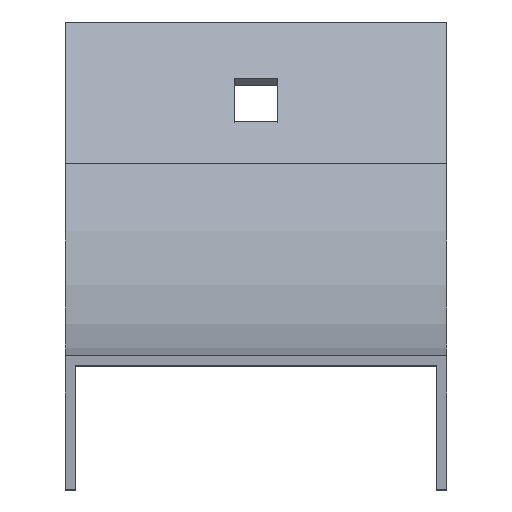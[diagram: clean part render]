
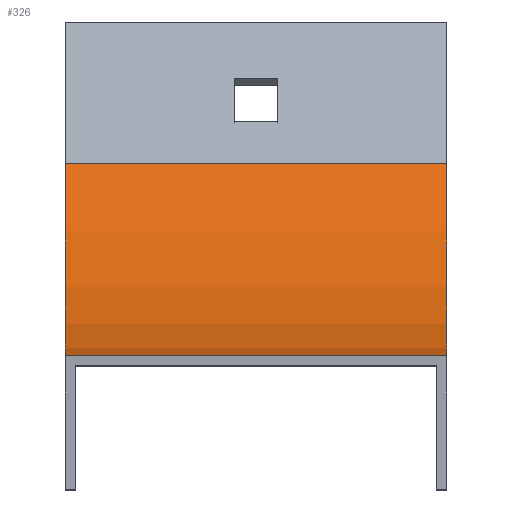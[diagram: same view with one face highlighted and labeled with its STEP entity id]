
A CAD part, top view. The second image highlights one B-rep face of the part: STEP entity #326.
In plain terms, the highlighted cylindrical face has radius 98.5 mm (diameter 197 mm), a partial arc.
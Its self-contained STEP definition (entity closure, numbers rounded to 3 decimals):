
#23 = CIRCLE ( 'NONE', #515, 98.5 ) ;
#67 = CARTESIAN_POINT ( 'NONE',  ( 28.5, 0., -30. ) ) ;
#70 = CARTESIAN_POINT ( 'NONE',  ( 28.5, 0., -30. ) ) ;
#121 = VERTEX_POINT ( 'NONE', #605 ) ;
#123 = CARTESIAN_POINT ( 'NONE',  ( -28.5, 0., -30. ) ) ;
#165 = CIRCLE ( 'NONE', #257, 98.5 ) ;
#209 = ORIENTED_EDGE ( 'NONE', *, *, #248, .F. ) ;
#248 = EDGE_CURVE ( 'NONE', #454, #677, #165, .T. ) ;
#256 = DIRECTION ( 'NONE',  ( 0., 0., -1. ) ) ;
#257 = AXIS2_PLACEMENT_3D ( 'NONE', #720, #794, #775 ) ;
#317 = DIRECTION ( 'NONE',  ( -1., 0., 0. ) ) ;
#324 = DIRECTION ( 'NONE',  ( -1., 0., 0. ) ) ;
#326 = ADVANCED_FACE ( 'NONE', ( #475 ), #471, .F. ) ;
#327 = VECTOR ( 'NONE', #626, 1000. ) ;
#344 = LINE ( 'NONE', #742, #327 ) ;
#378 = ORIENTED_EDGE ( 'NONE', *, *, #810, .F. ) ;
#397 = DIRECTION ( 'NONE',  ( -1., 0., 0. ) ) ;
#403 = DIRECTION ( 'NONE',  ( 0., 0., 1. ) ) ;
#424 = VECTOR ( 'NONE', #324, 1000. ) ;
#431 = ORIENTED_EDGE ( 'NONE', *, *, #688, .T. ) ;
#441 = CARTESIAN_POINT ( 'NONE',  ( -28.5, 98.5, -30. ) ) ;
#454 = VERTEX_POINT ( 'NONE', #546 ) ;
#464 = EDGE_LOOP ( 'NONE', ( #649, #378, #209, #431 ) ) ;
#471 = CYLINDRICAL_SURFACE ( 'NONE', #511, 98.5 ) ;
#475 = FACE_OUTER_BOUND ( 'NONE', #464, .T. ) ;
#511 = AXIS2_PLACEMENT_3D ( 'NONE', #601, #397, #403 ) ;
#515 = AXIS2_PLACEMENT_3D ( 'NONE', #441, #317, #256 ) ;
#546 = CARTESIAN_POINT ( 'NONE',  ( 28.5, 28.85, -99.65 ) ) ;
#601 = CARTESIAN_POINT ( 'NONE',  ( 28.5, 98.5, -30. ) ) ;
#605 = CARTESIAN_POINT ( 'NONE',  ( -28.5, 28.85, -99.65 ) ) ;
#626 = DIRECTION ( 'NONE',  ( -1., 0., 0. ) ) ;
#649 = ORIENTED_EDGE ( 'NONE', *, *, #778, .T. ) ;
#661 = LINE ( 'NONE', #67, #424 ) ;
#677 = VERTEX_POINT ( 'NONE', #70 ) ;
#688 = EDGE_CURVE ( 'NONE', #454, #121, #344, .T. ) ;
#720 = CARTESIAN_POINT ( 'NONE',  ( 28.5, 98.5, -30. ) ) ;
#742 = CARTESIAN_POINT ( 'NONE',  ( 28.5, 28.85, -99.65 ) ) ;
#761 = VERTEX_POINT ( 'NONE', #123 ) ;
#775 = DIRECTION ( 'NONE',  ( 0., 0., -1. ) ) ;
#778 = EDGE_CURVE ( 'NONE', #121, #761, #23, .T. ) ;
#794 = DIRECTION ( 'NONE',  ( -1., 0., 0. ) ) ;
#810 = EDGE_CURVE ( 'NONE', #677, #761, #661, .T. ) ;
